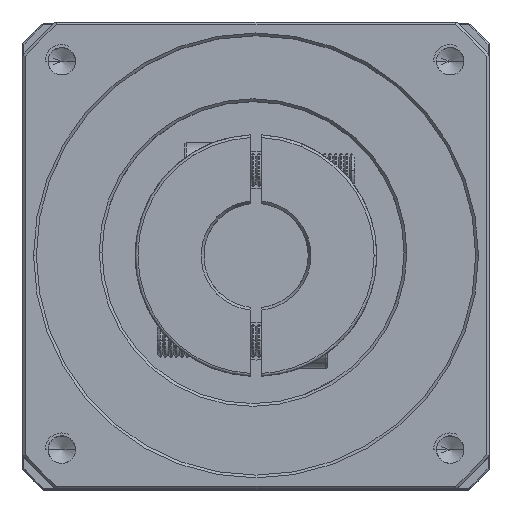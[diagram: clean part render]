
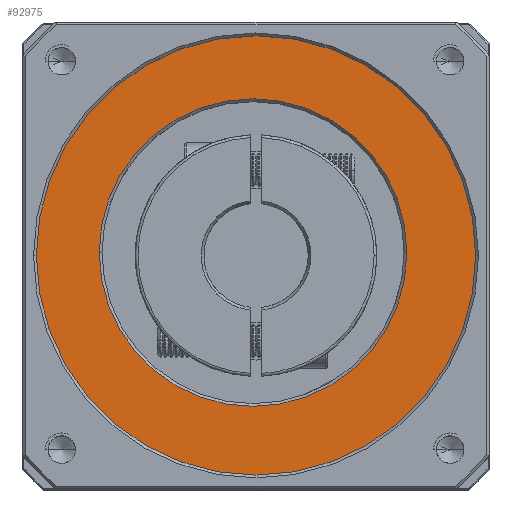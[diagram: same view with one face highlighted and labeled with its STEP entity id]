
A CAD part, top view. The second image highlights one B-rep face of the part: STEP entity #92975.
In plain terms, the highlighted planar face has unit normal (0, 0, 1).
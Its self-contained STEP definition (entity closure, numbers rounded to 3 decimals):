
#1437 = VERTEX_POINT ( 'NONE', #114018 ) ;
#2218 = DIRECTION ( 'NONE',  ( 0., 0., -1. ) ) ;
#4104 = AXIS2_PLACEMENT_3D ( 'NONE', #100743, #50062, #71877 ) ;
#4518 = DIRECTION ( 'NONE',  ( 1., 0., 0. ) ) ;
#5003 = EDGE_LOOP ( 'NONE', ( #26113, #125906 ) ) ;
#5949 = CARTESIAN_POINT ( 'NONE',  ( -20.257, 25.408, 11.032 ) ) ;
#22307 = CIRCLE ( 'NONE', #70242, 40. ) ;
#26113 = ORIENTED_EDGE ( 'NONE', *, *, #41149, .T. ) ;
#30042 = PLANE ( 'NONE',  #4104 ) ;
#32122 = EDGE_CURVE ( 'NONE', #124334, #1437, #43997, .T. ) ;
#33805 = CARTESIAN_POINT ( 'NONE',  ( -100.257, 25.408, 11.032 ) ) ;
#35193 = DIRECTION ( 'NONE',  ( 0., 0., -1. ) ) ;
#35997 = AXIS2_PLACEMENT_3D ( 'NONE', #63145, #35193, #4518 ) ;
#38100 = CARTESIAN_POINT ( 'NONE',  ( -88.799, 25.942, 11.032 ) ) ;
#39306 = VERTEX_POINT ( 'NONE', #5949 ) ;
#39379 = ORIENTED_EDGE ( 'NONE', *, *, #49579, .T. ) ;
#41149 = EDGE_CURVE ( 'NONE', #39306, #110909, #55373, .T. ) ;
#42304 = EDGE_CURVE ( 'NONE', #110909, #39306, #22307, .T. ) ;
#42475 = CARTESIAN_POINT ( 'NONE',  ( -60.799, 25.942, 11.032 ) ) ;
#43997 = CIRCLE ( 'NONE', #80470, 28. ) ;
#49579 = EDGE_CURVE ( 'NONE', #1437, #124334, #81894, .T. ) ;
#50062 = DIRECTION ( 'NONE',  ( 0., 0., 1. ) ) ;
#50576 = FACE_OUTER_BOUND ( 'NONE', #5003, .T. ) ;
#55373 = CIRCLE ( 'NONE', #79227, 40. ) ;
#63145 = CARTESIAN_POINT ( 'NONE',  ( -60.799, 25.942, 11.032 ) ) ;
#64000 = DIRECTION ( 'NONE',  ( 1., 0., 0. ) ) ;
#70242 = AXIS2_PLACEMENT_3D ( 'NONE', #113864, #115156, #64000 ) ;
#71463 = EDGE_LOOP ( 'NONE', ( #39379, #77554 ) ) ;
#71877 = DIRECTION ( 'NONE',  ( 1., 0., 0. ) ) ;
#75664 = DIRECTION ( 'NONE',  ( 0., 0., 1. ) ) ;
#76523 = CARTESIAN_POINT ( 'NONE',  ( -60.257, 25.408, 11.032 ) ) ;
#77554 = ORIENTED_EDGE ( 'NONE', *, *, #32122, .T. ) ;
#78812 = FACE_BOUND ( 'NONE', #71463, .T. ) ;
#79227 = AXIS2_PLACEMENT_3D ( 'NONE', #76523, #75664, #85663 ) ;
#80470 = AXIS2_PLACEMENT_3D ( 'NONE', #42475, #2218, #82168 ) ;
#81894 = CIRCLE ( 'NONE', #35997, 28. ) ;
#82168 = DIRECTION ( 'NONE',  ( 1., 0., 0. ) ) ;
#85663 = DIRECTION ( 'NONE',  ( 1., 0., 0. ) ) ;
#92975 = ADVANCED_FACE ( 'NONE', ( #50576, #78812 ), #30042, .T. ) ;
#100743 = CARTESIAN_POINT ( 'NONE',  ( -60.257, 25.408, 11.032 ) ) ;
#110909 = VERTEX_POINT ( 'NONE', #33805 ) ;
#113864 = CARTESIAN_POINT ( 'NONE',  ( -60.257, 25.408, 11.032 ) ) ;
#114018 = CARTESIAN_POINT ( 'NONE',  ( -32.799, 25.942, 11.032 ) ) ;
#115156 = DIRECTION ( 'NONE',  ( 0., 0., 1. ) ) ;
#124334 = VERTEX_POINT ( 'NONE', #38100 ) ;
#125906 = ORIENTED_EDGE ( 'NONE', *, *, #42304, .T. ) ;
